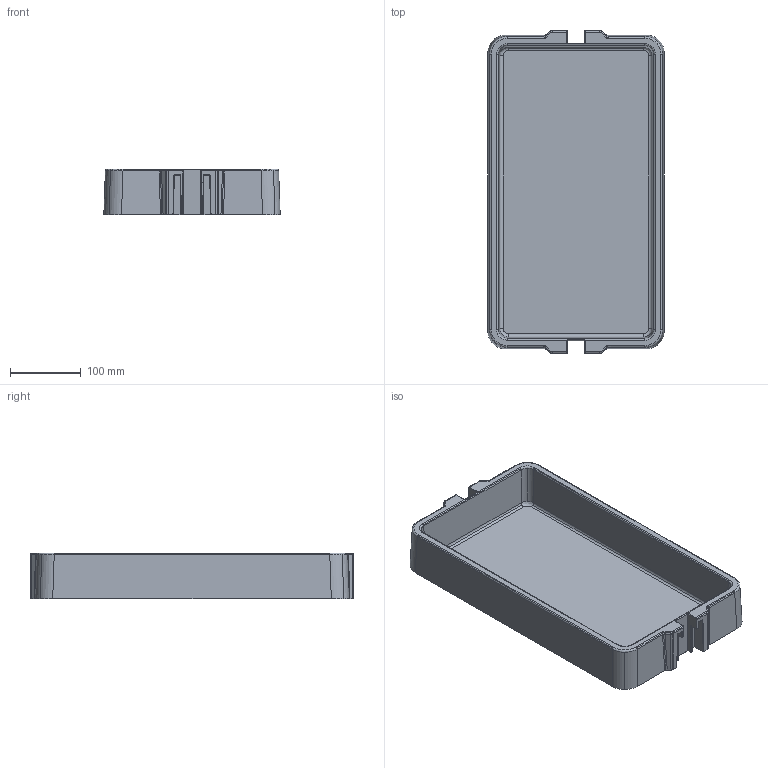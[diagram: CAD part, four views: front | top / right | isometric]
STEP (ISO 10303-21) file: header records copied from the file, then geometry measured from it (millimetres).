
FILE_DESCRIPTION(('STEP AP242'),'1');
FILE_NAME('OPO_53.154.32.stp','2026-01-27T03:53:28',(' '),(' '),'Spatial InterOp 3D',' ',' ');
FILE_SCHEMA(('AP242_MANAGED_MODEL_BASED_3D_ENGINEERING_MIM_LF {1 0 10303 442 1 1 4}'));
Length unit declared in the file: millimetre
Products named in the file (1): 1
Bounding box: 250 x 458 x 65 mm (x, y, z)
Volume: 1440868.4 mm3; surface area: 384789.9 mm2
Topology: 1 solids, 1 shells, 367 faces, 957 edges, 585 vertices
Faces by surface type: cylinder 224, plane 74, torus 32, bspline 32, sphere 5
Entity records: 18622 total; most frequent: CARTESIAN_POINT 6463, DIRECTION 2102, ORIENTED_EDGE 1888, EDGE_CURVE 944, AXIS2_PLACEMENT_3D 842, VERTEX_POINT 585, LINE 418, VECTOR 418
